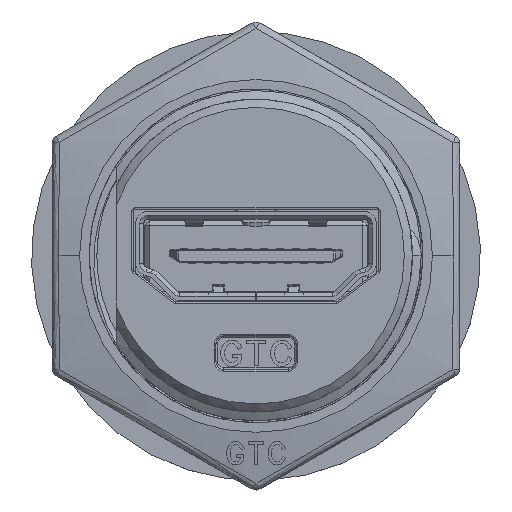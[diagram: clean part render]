
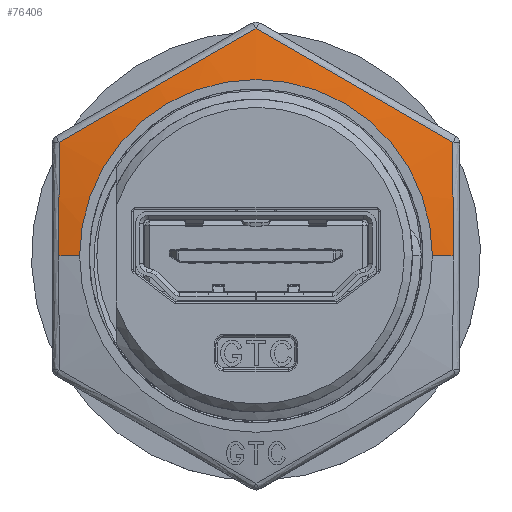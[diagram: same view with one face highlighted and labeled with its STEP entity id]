
A CAD part, top view. The second image highlights one B-rep face of the part: STEP entity #76406.
In plain terms, the highlighted conical face has half-angle 80 degrees and reference radius 11 mm.
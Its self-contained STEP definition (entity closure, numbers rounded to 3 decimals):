
#18387 = FACE_OUTER_BOUND ( 'NONE', #85313, .T. ) ;
#18390 = CONICAL_SURFACE ( 'NONE', #19085, 11., 1.396 ) ;
#19085 = AXIS2_PLACEMENT_3D ( 'NONE', #54829, #54792, #54790 ) ;
#48005 = CARTESIAN_POINT ( 'NONE',  ( 12.287, 0., 1.773 ) ) ;
#48006 = CARTESIAN_POINT ( 'NONE',  ( 12.275, 7.087, 1.44 ) ) ;
#48007 = CARTESIAN_POINT ( 'NONE',  ( 0., 14.174, 1.44 ) ) ;
#48008 = CARTESIAN_POINT ( 'NONE',  ( -12.275, 7.087, 1.44 ) ) ;
#48009 = CARTESIAN_POINT ( 'NONE',  ( -12.287, 0., 1.773 ) ) ;
#48558 = CARTESIAN_POINT ( 'NONE',  ( 11., 0., 2. ) ) ;
#48600 = CARTESIAN_POINT ( 'NONE',  ( -11., 0., 2. ) ) ;
#54790 = DIRECTION ( 'NONE',  ( -1., 0., 0. ) ) ;
#54792 = DIRECTION ( 'NONE',  ( 0., 0., -1. ) ) ;
#54829 = CARTESIAN_POINT ( 'NONE',  ( 0., 0., 2. ) ) ;
#76406 = ADVANCED_FACE ( 'NONE', ( #18387 ), #18390, .T. ) ;
#85313 = EDGE_LOOP ( 'NONE', ( #133950, #133947, #133957, #133976, #134261, #134264, #134270 ) ) ;
#86216 = AXIS2_PLACEMENT_3D ( 'NONE', #98372, #98373, #98374 ) ;
#98345 = CARTESIAN_POINT ( 'NONE',  ( 12.287, 0., 1.773 ) ) ;
#98346 = CARTESIAN_POINT ( 'NONE',  ( 12.287, 2.366, 1.773 ) ) ;
#98351 = CARTESIAN_POINT ( 'NONE',  ( 12.281, 4.73, 1.647 ) ) ;
#98352 = CARTESIAN_POINT ( 'NONE',  ( 12.275, 7.087, 1.44 ) ) ;
#98361 = CARTESIAN_POINT ( 'NONE',  ( 10.237, 8.271, 1.647 ) ) ;
#98372 = CARTESIAN_POINT ( 'NONE',  ( 0., 0., 2. ) ) ;
#98373 = DIRECTION ( 'NONE',  ( 0., 0., -1. ) ) ;
#98374 = DIRECTION ( 'NONE',  ( -1., 0., 0. ) ) ;
#98378 = CARTESIAN_POINT ( 'NONE',  ( 12.275, 7.087, 1.44 ) ) ;
#98382 = CARTESIAN_POINT ( 'NONE',  ( 8.195, 9.456, 1.773 ) ) ;
#98383 = CARTESIAN_POINT ( 'NONE',  ( 4.095, 11.823, 1.773 ) ) ;
#98384 = CARTESIAN_POINT ( 'NONE',  ( 2.045, 13.001, 1.647 ) ) ;
#98385 = CARTESIAN_POINT ( 'NONE',  ( 0., 14.174, 1.44 ) ) ;
#98393 = CARTESIAN_POINT ( 'NONE',  ( -2.044, 13.001, 1.647 ) ) ;
#98394 = CARTESIAN_POINT ( 'NONE',  ( 0., 14.174, 1.44 ) ) ;
#98400 = CARTESIAN_POINT ( 'NONE',  ( -4.092, 11.825, 1.773 ) ) ;
#98401 = CARTESIAN_POINT ( 'NONE',  ( -8.191, 9.458, 1.773 ) ) ;
#98402 = CARTESIAN_POINT ( 'NONE',  ( -10.237, 8.271, 1.647 ) ) ;
#98403 = CARTESIAN_POINT ( 'NONE',  ( -12.275, 7.087, 1.44 ) ) ;
#98529 = DIRECTION ( 'NONE',  ( 0.985, 0., -0.174 ) ) ;
#98534 = CARTESIAN_POINT ( 'NONE',  ( 11., 0., 2. ) ) ;
#98547 = CARTESIAN_POINT ( 'NONE',  ( -11., 0., 2. ) ) ;
#98548 = DIRECTION ( 'NONE',  ( -0.985, 0., -0.174 ) ) ;
#98554 = CARTESIAN_POINT ( 'NONE',  ( -12.281, 4.729, 1.647 ) ) ;
#98555 = CARTESIAN_POINT ( 'NONE',  ( -12.275, 7.087, 1.44 ) ) ;
#98561 = CARTESIAN_POINT ( 'NONE',  ( -12.287, 2.368, 1.773 ) ) ;
#98562 = CARTESIAN_POINT ( 'NONE',  ( -12.287, 0., 1.773 ) ) ;
#99179 = CIRCLE ( 'NONE', #86216, 11. ) ;
#99211 = LINE ( 'NONE', #98547, #99214 ) ;
#99214 = VECTOR ( 'NONE', #98548, 1000. ) ;
#99215 = LINE ( 'NONE', #98534, #99216 ) ;
#99216 = VECTOR ( 'NONE', #98529, 1000. ) ;
#102700 = EDGE_CURVE ( 'NONE', #122338, #122341, #109389, .T. ) ;
#102703 = EDGE_CURVE ( 'NONE', #134355, #133661, #99179, .T. ) ;
#102706 = EDGE_CURVE ( 'NONE', #122341, #122344, #109405, .T. ) ;
#102709 = EDGE_CURVE ( 'NONE', #122344, #122347, #109413, .T. ) ;
#102740 = EDGE_CURVE ( 'NONE', #134355, #122352, #99211, .T. ) ;
#102742 = EDGE_CURVE ( 'NONE', #133661, #122338, #99215, .T. ) ;
#102744 = EDGE_CURVE ( 'NONE', #122347, #122352, #109481, .T. ) ;
#109389 = B_SPLINE_CURVE_WITH_KNOTS ( 'NONE', 3,
 ( #98345, #98346, #98351, #98352 ),
 .UNSPECIFIED., .F., .F.,
 ( 4, 4 ),
 ( 0.007, 0.014 ),
 .UNSPECIFIED. ) ;
#109405 = B_SPLINE_CURVE_WITH_KNOTS ( 'NONE', 3,
 ( #98378, #98361, #98382, #98383, #98384, #98385 ),
 .UNSPECIFIED., .F., .F.,
 ( 4, 2, 4 ),
 ( 0., 0.007, 0.014 ),
 .UNSPECIFIED. ) ;
#109413 = B_SPLINE_CURVE_WITH_KNOTS ( 'NONE', 3,
 ( #98394, #98393, #98400, #98401, #98402, #98403 ),
 .UNSPECIFIED., .F., .F.,
 ( 4, 2, 4 ),
 ( 0., 0.007, 0.014 ),
 .UNSPECIFIED. ) ;
#109481 = B_SPLINE_CURVE_WITH_KNOTS ( 'NONE', 3,
 ( #98555, #98554, #98561, #98562 ),
 .UNSPECIFIED., .F., .F.,
 ( 4, 4 ),
 ( 0., 0.007 ),
 .UNSPECIFIED. ) ;
#122338 = VERTEX_POINT ( 'NONE', #48005 ) ;
#122341 = VERTEX_POINT ( 'NONE', #48006 ) ;
#122344 = VERTEX_POINT ( 'NONE', #48007 ) ;
#122347 = VERTEX_POINT ( 'NONE', #48008 ) ;
#122352 = VERTEX_POINT ( 'NONE', #48009 ) ;
#133661 = VERTEX_POINT ( 'NONE', #48558 ) ;
#133947 = ORIENTED_EDGE ( 'NONE', *, *, #102742, .T. ) ;
#133950 = ORIENTED_EDGE ( 'NONE', *, *, #102703, .T. ) ;
#133957 = ORIENTED_EDGE ( 'NONE', *, *, #102700, .T. ) ;
#133976 = ORIENTED_EDGE ( 'NONE', *, *, #102706, .T. ) ;
#134261 = ORIENTED_EDGE ( 'NONE', *, *, #102709, .T. ) ;
#134264 = ORIENTED_EDGE ( 'NONE', *, *, #102744, .T. ) ;
#134270 = ORIENTED_EDGE ( 'NONE', *, *, #102740, .F. ) ;
#134355 = VERTEX_POINT ( 'NONE', #48600 ) ;
